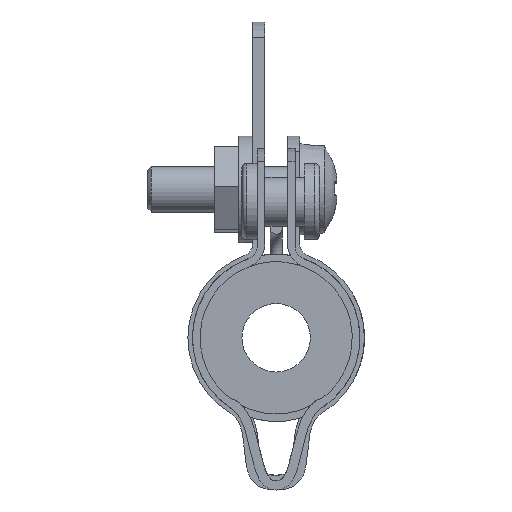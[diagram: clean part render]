
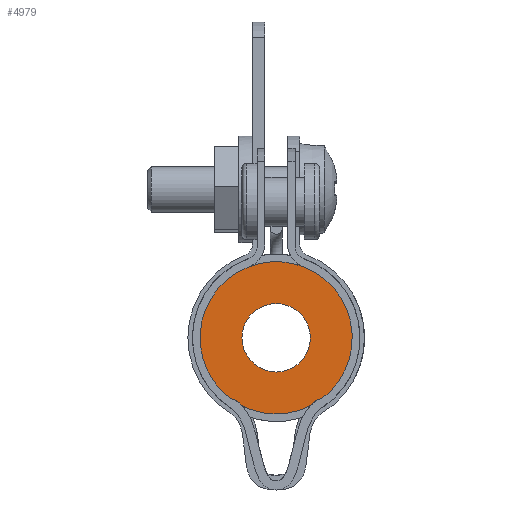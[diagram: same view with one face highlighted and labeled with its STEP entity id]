
A CAD part, front view. The second image highlights one B-rep face of the part: STEP entity #4979.
In plain terms, the highlighted planar face has unit normal (0, -1, 0).
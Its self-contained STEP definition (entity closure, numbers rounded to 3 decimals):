
#312=LINE($,#9147,#568);
#313=LINE($,#9158,#569);
#568=VECTOR($,#6783,0.347);
#569=VECTOR($,#6784,0.347);
#699=B_SPLINE_CURVE_WITH_KNOTS($,3,(#9148,#9149,#9150,#9151),
 .UNSPECIFIED.,.F.,.F.,(4,4),(0.,0.059),.UNSPECIFIED.);
#700=B_SPLINE_CURVE_WITH_KNOTS($,3,(#9153,#9154,#9155,#9156),
 .UNSPECIFIED.,.F.,.F.,(4,4),(0.12,0.179),
 .UNSPECIFIED.);
#814=FACE_BOUND($,#1539,.T.);
#815=FACE_BOUND($,#1540,.T.);
#1539=EDGE_LOOP($,(#4093));
#1540=EDGE_LOOP($,(#4094,#4095,#4096,#4097,#4098,#4099,#4100,#4101));
#1813=CIRCLE($,#5451,2.25);
#1821=CIRCLE($,#5462,5.);
#1823=CIRCLE($,#5464,5.);
#1846=CIRCLE($,#5523,5.);
#1847=CIRCLE($,#5524,5.);
#2204=VERTEX_POINT($,#8753);
#2215=VERTEX_POINT($,#8785);
#2216=VERTEX_POINT($,#8787);
#2219=VERTEX_POINT($,#8793);
#2220=VERTEX_POINT($,#8798);
#2258=VERTEX_POINT($,#9145);
#2259=VERTEX_POINT($,#9146);
#2260=VERTEX_POINT($,#9152);
#2261=VERTEX_POINT($,#9157);
#2790=EDGE_CURVE($,#2204,#2204,#1813,.T.);
#2803=EDGE_CURVE($,#2216,#2215,#1821,.T.);
#2807=EDGE_CURVE($,#2220,#2219,#1823,.T.);
#2879=EDGE_CURVE($,#2258,#2259,#312,.T.);
#2880=EDGE_CURVE($,#2259,#2220,#699,.T.);
#2881=EDGE_CURVE($,#2219,#2260,#700,.T.);
#2882=EDGE_CURVE($,#2260,#2261,#313,.T.);
#2883=EDGE_CURVE($,#2261,#2216,#1846,.T.);
#2884=EDGE_CURVE($,#2215,#2258,#1847,.T.);
#4093=ORIENTED_EDGE($,*,*,#2790,.T.);
#4094=ORIENTED_EDGE($,*,*,#2879,.T.);
#4095=ORIENTED_EDGE($,*,*,#2880,.T.);
#4096=ORIENTED_EDGE($,*,*,#2807,.T.);
#4097=ORIENTED_EDGE($,*,*,#2881,.T.);
#4098=ORIENTED_EDGE($,*,*,#2882,.T.);
#4099=ORIENTED_EDGE($,*,*,#2883,.T.);
#4100=ORIENTED_EDGE($,*,*,#2803,.T.);
#4101=ORIENTED_EDGE($,*,*,#2884,.T.);
#4411=PLANE($,#5522);
#4979=ADVANCED_FACE($,(#814,#815),#4411,.T.);
#5451=AXIS2_PLACEMENT_3D($,#8754,#6597,#6598);
#5462=AXIS2_PLACEMENT_3D($,#8788,#6622,#6623);
#5464=AXIS2_PLACEMENT_3D($,#8799,#6627,#6628);
#5522=AXIS2_PLACEMENT_3D($,#9144,#6781,#6782);
#5523=AXIS2_PLACEMENT_3D($,#9159,#6785,#6786);
#5524=AXIS2_PLACEMENT_3D($,#9160,#6787,#6788);
#6597=DIRECTION('center_axis',(0.,1.,0.));
#6598=DIRECTION('ref_axis',(1.,0.,0.));
#6622=DIRECTION('center_axis',(0.,-1.,0.));
#6623=DIRECTION('ref_axis',(1.,0.,0.));
#6627=DIRECTION('center_axis',(0.,-1.,0.));
#6628=DIRECTION('ref_axis',(1.,0.,0.));
#6781=DIRECTION('center_axis',(0.,-1.,0.));
#6782=DIRECTION('ref_axis',(0.,0.,-1.));
#6783=DIRECTION($,(0.959,0.,-0.284));
#6784=DIRECTION($,(0.959,0.,0.284));
#6785=DIRECTION('center_axis',(0.,-1.,0.));
#6786=DIRECTION('ref_axis',(1.,0.,0.));
#6787=DIRECTION('center_axis',(0.,-1.,0.));
#6788=DIRECTION('ref_axis',(1.,0.,0.));
#8753=CARTESIAN_POINT('',(-2.25,0.,0.));
#8754=CARTESIAN_POINT('Origin',(0.,0.,0.));
#8785=CARTESIAN_POINT('',(-1.78,0.,4.672));
#8787=CARTESIAN_POINT('',(1.78,0.,4.672));
#8788=CARTESIAN_POINT('Origin',(0.,0.,0.));
#8793=CARTESIAN_POINT('',(2.221,0.,-4.48));
#8798=CARTESIAN_POINT('',(-2.221,0.,-4.48));
#8799=CARTESIAN_POINT('Origin',(0.,0.,0.));
#9144=CARTESIAN_POINT('Origin',(0.,0.,0.));
#9145=CARTESIAN_POINT('',(-3.,0.,-4.));
#9146=CARTESIAN_POINT('',(-2.667,0.,-4.099));
#9147=CARTESIAN_POINT($,(-2.001,0.,-4.297));
#9148=CARTESIAN_POINT('Ctrl Pts',(-2.667,0.,
-4.099));
#9149=CARTESIAN_POINT('Ctrl Pts',(-2.502,0.,
-4.207));
#9150=CARTESIAN_POINT('Ctrl Pts',(-2.354,0.,
-4.335));
#9151=CARTESIAN_POINT('Ctrl Pts',(-2.221,0.,
-4.48));
#9152=CARTESIAN_POINT('',(2.667,0.,-4.099));
#9153=CARTESIAN_POINT('Ctrl Pts',(2.221,0.,
-4.48));
#9154=CARTESIAN_POINT('Ctrl Pts',(2.353,0.,
-4.335));
#9155=CARTESIAN_POINT('Ctrl Pts',(2.501,0.,
-4.207));
#9156=CARTESIAN_POINT('Ctrl Pts',(2.667,0.,
-4.099));
#9157=CARTESIAN_POINT('',(3.,0.,-4.));
#9158=CARTESIAN_POINT($,(2.001,0.,-4.297));
#9159=CARTESIAN_POINT('Origin',(0.,0.,0.));
#9160=CARTESIAN_POINT('Origin',(0.,0.,0.));
